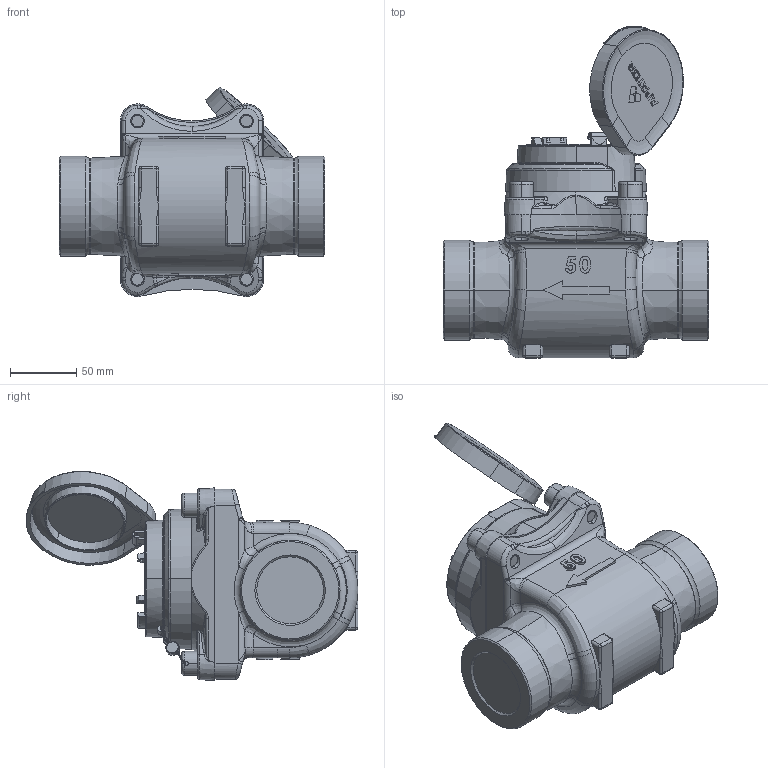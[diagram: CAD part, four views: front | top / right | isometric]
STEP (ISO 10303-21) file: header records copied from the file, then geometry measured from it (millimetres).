
FILE_DESCRIPTION (( 'STEP AP214' ), '1' );
FILE_NAME ('MNW50-G IP68.STEP', '2025-08-04T06:32:38', ( '' ), ( '' ), 'SwSTEP 2.0', 'SolidWorks 2019', '' );
FILE_SCHEMA (( 'AUTOMOTIVE_DESIGN' ));
Length unit declared in the file: millimetre
Products named in the file (1): MNW50-G IP68
Bounding box: 200 x 249.6 x 157.34 mm (x, y, z)
Surface area: 193370.3 mm2 (no closed solid volume)
Topology: 0 solids, 23 shells, 2053 faces, 5364 edges, 3346 vertices
Faces by surface type: plane 849, cylinder 469, bspline 411, cone 169, torus 134, sphere 21
Entity records: 104015 total; most frequent: CARTESIAN_POINT 34425, ORIENTED_EDGE 10573, DIRECTION 8850, EDGE_CURVE 5289, VERTEX_POINT 3345, AXIS2_PLACEMENT_3D 3207, LINE 2436, VECTOR 2436
